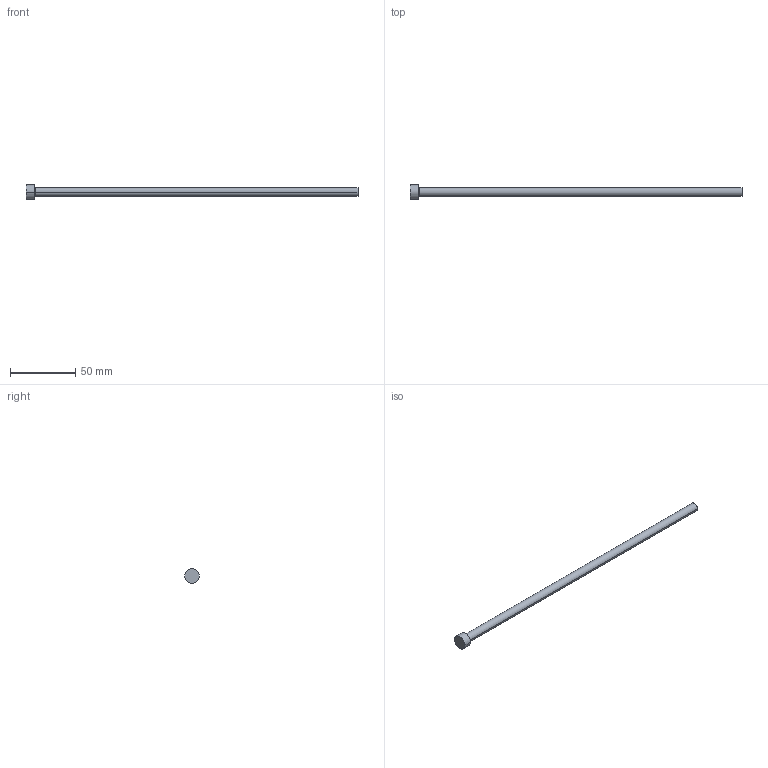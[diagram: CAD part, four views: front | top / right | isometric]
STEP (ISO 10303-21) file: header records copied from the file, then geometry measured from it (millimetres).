
FILE_DESCRIPTION (( 'STEP AP214' ), '1' );
FILE_NAME ('P18-10.STEP', '2020-03-12T08:52:10', ( '' ), ( '' ), 'SwSTEP 2.0', 'SolidWorks 2018', '' );
FILE_SCHEMA (( 'AUTOMOTIVE_DESIGN' ));
Length unit declared in the file: inch
Products named in the file (1): P18-10
Bounding box: 254 x 11.11 x 11.11 mm (x, y, z)
Volume: 9452.2 mm3; surface area: 5648.1 mm2
Topology: 1 solids, 1 shells, 13 faces, 24 edges, 14 vertices
Faces by surface type: cone 4, cylinder 4, plane 3, torus 2
Entity records: 366 total; most frequent: DIRECTION 68, CARTESIAN_POINT 52, ORIENTED_EDGE 48, AXIS2_PLACEMENT_3D 30, EDGE_CURVE 24, CIRCLE 16, EDGE_LOOP 14, VERTEX_POINT 14
